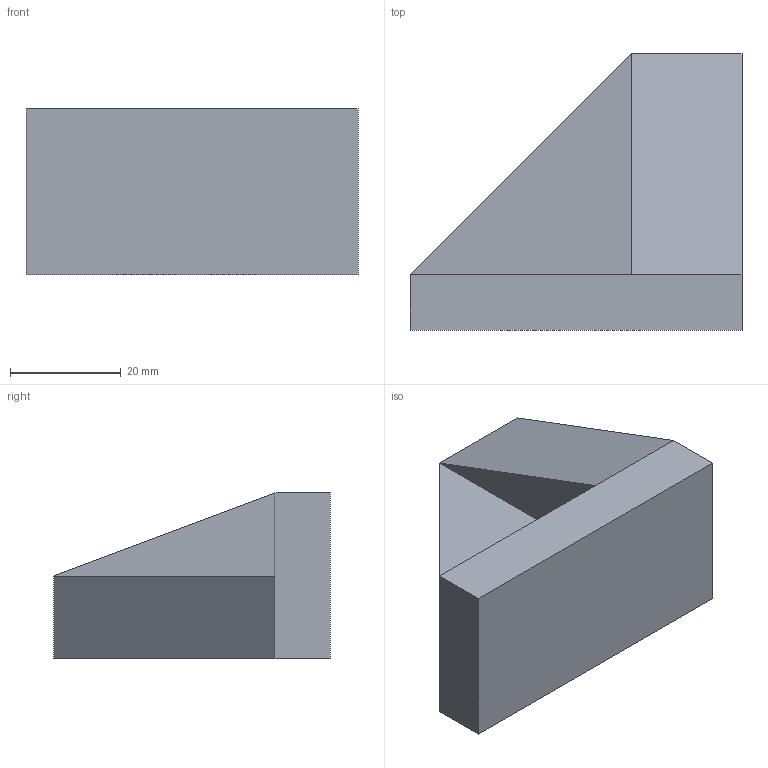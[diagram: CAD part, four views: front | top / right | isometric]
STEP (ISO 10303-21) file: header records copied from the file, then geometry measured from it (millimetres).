
FILE_DESCRIPTION(/* description */ (''),/* implementation_level */ '2;1');
FILE_NAME(/* name */ 'E:\OneDrive\Desktop\N5_GC_Orthographic\3D CAD Models\Task_6.stp',/* time_stamp */ '2020-06-09T12:48:12+01:00',/* author */ ('hunte'),/* organization */ (''),/* preprocessor_version */ 'ST-DEVELOPER v18.1',/* originating_system */ 'Autodesk Inventor 2020',/* authorisation */ '');
FILE_SCHEMA (('AUTOMOTIVE_DESIGN { 1 0 10303 214 3 1 1 }'));
Length unit declared in the file: millimetre
Products named in the file (1): Task_6
Bounding box: 60 x 50 x 30 mm (x, y, z)
Volume: 48000 mm3; surface area: 9802.9 mm2
Topology: 1 solids, 1 shells, 11 faces, 23 edges, 14 vertices
Faces by surface type: plane 11
Entity records: 326 total; most frequent: CARTESIAN_POINT 49, DIRECTION 47, ORIENTED_EDGE 46, LINE 23, VECTOR 23, EDGE_CURVE 23, VERTEX_POINT 14, AXIS2_PLACEMENT_3D 12
